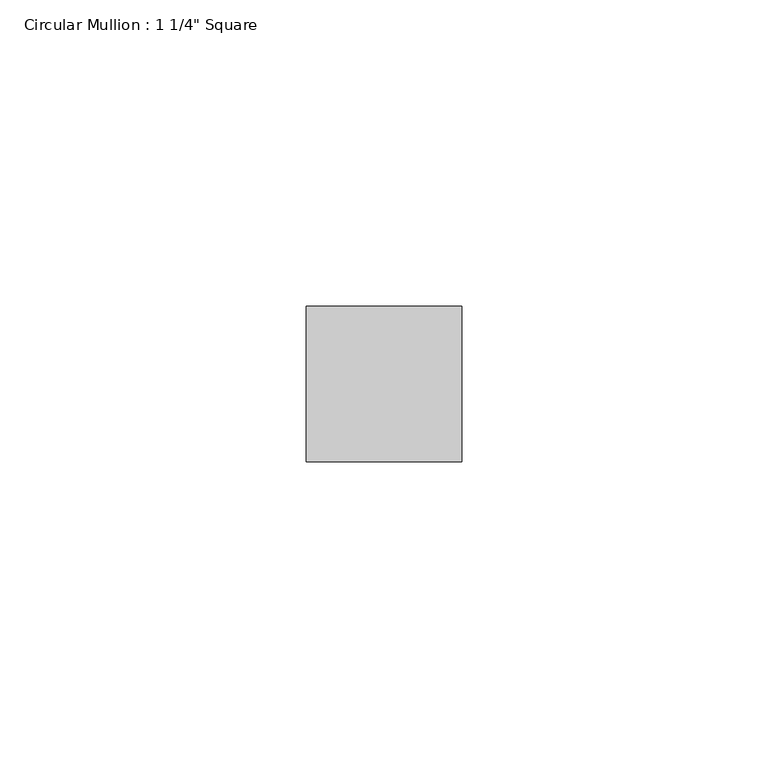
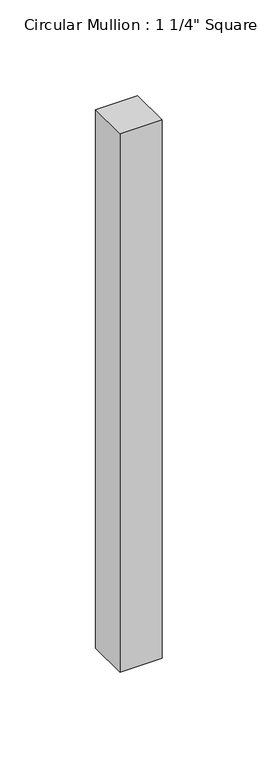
"""IFC4 building model written with IfcOpenShell, lengths in millimetres: member geometry."""

from ifc_helpers import new_model, si_unit, frame, origin, place, context, project, spatial, polyline, outline, extrude, source, transform, mapped, element, save


def member_6c57b699(model_context):
    return source(origin(), model_context, "Body", "SweptSolid", [
        extrude(outline(polyline([(12.7, 12.7), (12.7, -12.7), (-12.7, -12.7), (-12.7, 12.7), (12.7, 12.7)])), frame((0.0, 0.0, -342.9), z_axis=(0.0, 0.0, 1.0), x_axis=(1.0, 0.0, 0.0)), (0.0, 0.0, 1.0), 342.9),
    ])


if __name__ == "__main__":
    model = new_model("IFC4")
    model_context = context("Model", 3, world=origin())
    ifc_project = project(units=[si_unit("LENGTHUNIT", "METRE", prefix="MILLI")], contexts=[model_context])
    site = spatial("IfcSite", under=ifc_project)
    building = spatial("IfcBuilding", under=site)
    placement = place(None, origin())
    member_shape = member_6c57b699(model_context)
    element("IfcMember", 1, ObjectType="Circular Mullion : 1 1/4\" Square", at=placement, inside=building, context=model_context, shape_type="MappedRepresentation", body=[
        mapped(member_shape, transform((0.0, 0.0, 0.0), x_axis=(1.0, 0.0, 0.0), y_axis=(0.0, 1.0, 0.0), z_axis=(0.0, 0.0, 1.0))),
    ])
    save(model, "model.ifc")
